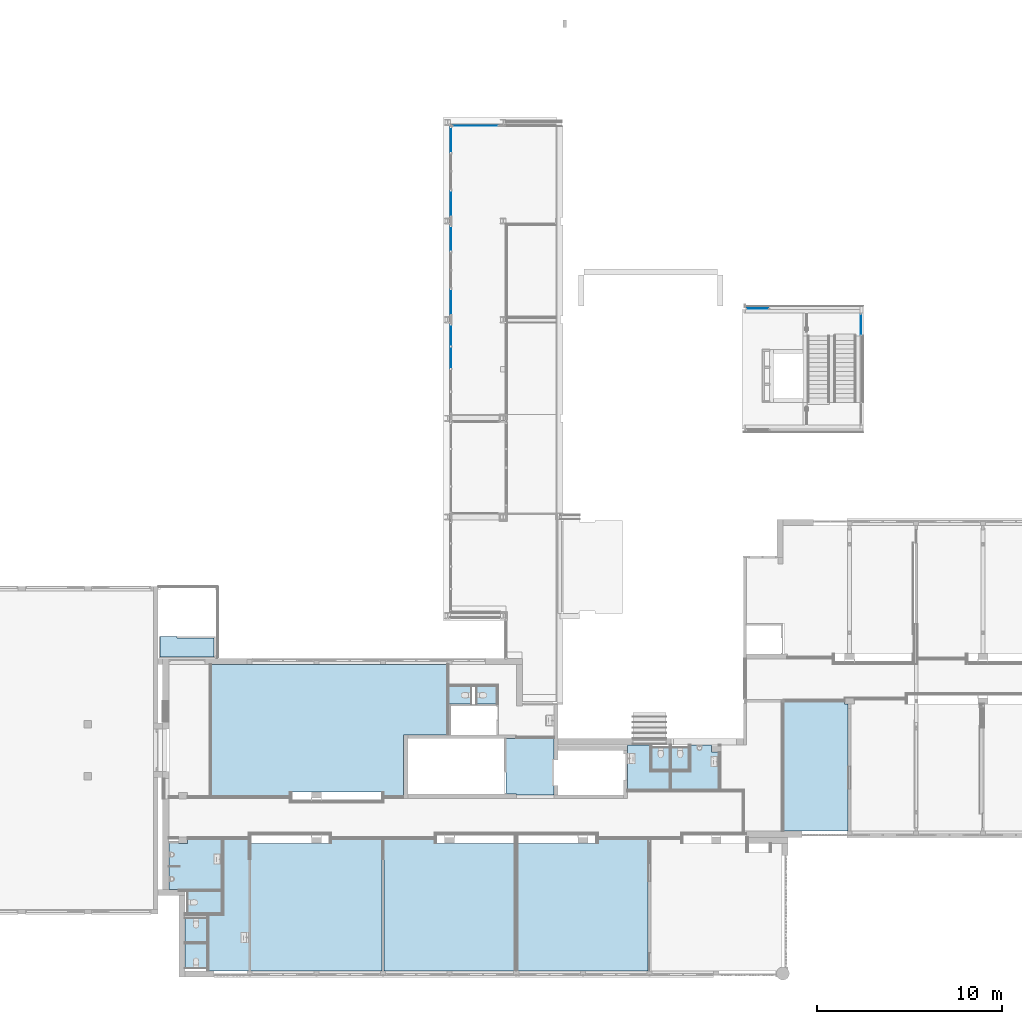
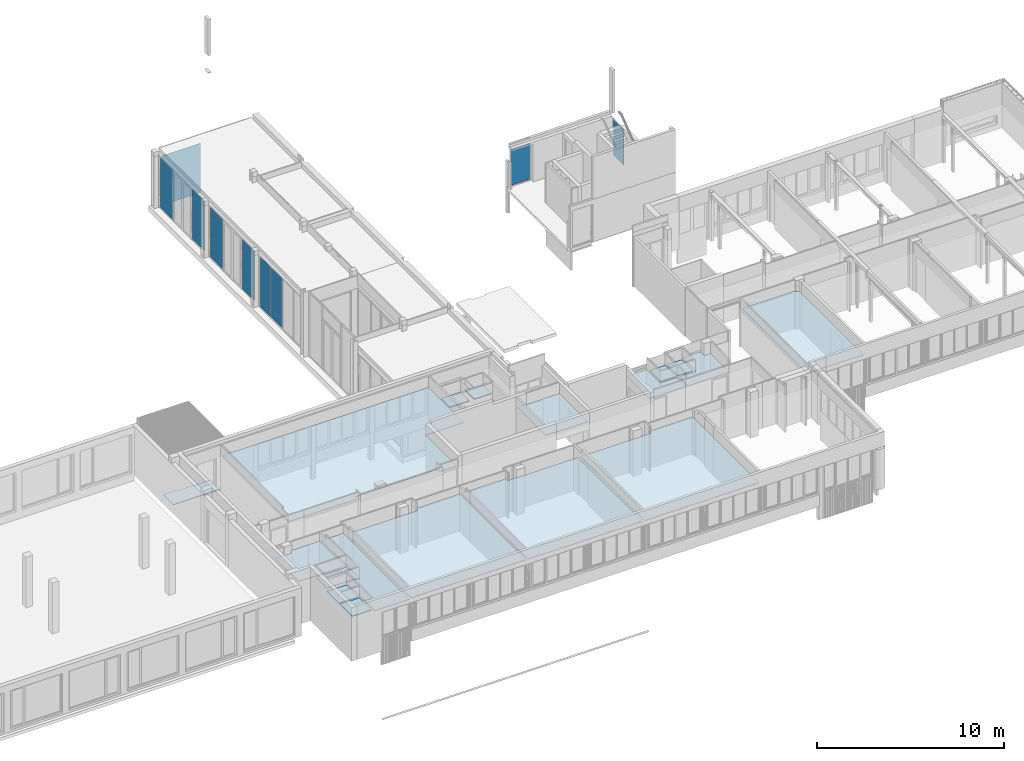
# One storey, part 8 of 99: 18 slabs, 9 plates, 6 elements without a shape of their own.
"""IFC2X3 building model written with IfcOpenShell, lengths in millimetres."""

from ifc_helpers import new_model, entity, si_unit, converted_unit, derived_unit, money_unit, direction, frame, origin_with_axes, place, context, subcontext, project, spatial, faceted_brep, source, transform, mapped, material, type_object, type_shapes, element, aggregate, save


model = new_model("IFC2X3")

# Units and contexts
model_context = context("Model", 3, precision=0.01, world=origin_with_axes(), true_north=direction((0.0, 1.0)))
body_context = subcontext(model_context, "Body", "Model", "MODEL_VIEW")
ifc_project = project(units=[si_unit("LENGTHUNIT", "METRE", prefix="MILLI"), si_unit("AREAUNIT", "SQUARE_METRE"), si_unit("VOLUMEUNIT", "CUBIC_METRE"), converted_unit("PLANEANGLEUNIT", "DEGREE", entity("IfcPlaneAngleMeasure", 0.0174532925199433), si_unit("PLANEANGLEUNIT", "RADIAN"), dimensions=[0, 0, 0, 0, 0, 0, 0]), money_unit("EUR"), converted_unit("TIMEUNIT", "Year", entity("IfcTimeMeasure", 31557600.0), si_unit("TIMEUNIT", "SECOND"), dimensions=[0, 0, 1, 0, 0, 0, 0]), si_unit("MASSUNIT", "GRAM", prefix="KILO"), si_unit("THERMODYNAMICTEMPERATUREUNIT", "DEGREE_CELSIUS"), si_unit("LUMINOUSINTENSITYUNIT", "LUMEN"), si_unit("ENERGYUNIT", "JOULE", prefix="MEGA"), derived_unit("THERMALCONDUCTANCEUNIT", [(si_unit("POWERUNIT", "WATT"), 1), (si_unit("LENGTHUNIT", "METRE"), -1), (si_unit("THERMODYNAMICTEMPERATUREUNIT", "KELVIN"), -1)]), derived_unit("SPECIFICHEATCAPACITYUNIT", [(si_unit("ENERGYUNIT", "JOULE"), 1), (si_unit("MASSUNIT", "GRAM", prefix="KILO"), -1), (si_unit("THERMODYNAMICTEMPERATUREUNIT", "KELVIN"), -1)]), derived_unit("MASSDENSITYUNIT", [(si_unit("MASSUNIT", "GRAM", prefix="KILO"), 1), (si_unit("VOLUMEUNIT", "CUBIC_METRE"), -1)])], contexts=[model_context])

# Site, building, storey
site_placement = place(None, origin_with_axes())
site = spatial("IfcSite", under=ifc_project, at=site_placement, Name="Site", CompositionType="ELEMENT")
building_placement = place(site_placement, origin_with_axes())
building = spatial("IfcBuilding", under=site, at=building_placement, Name="Naam gebouw", CompositionType="ELEMENT")
storey_placement = place(building_placement, frame((0.0, 0.0, 7650.0), z_axis=(0.0, 0.0, 1.0), x_axis=(1.0, 0.0, 0.0)))
storey = spatial("IfcBuildingStorey", under=building, at=storey_placement, Name="2e verdieping N", CompositionType="ELEMENT", Elevation=7650.0)

# Curtain wall, plate
curtain_wall_type_1 = type_object("IfcCurtainWallType", Name="Curtain Wall:21_CW_alu kozijn 070x065", PredefinedType="NOTDEFINED")
curtain_wall_1_placement = place(storey_placement, frame((0.0, 0.0, -7650.0), z_axis=(0.0, 0.0, 1.0), x_axis=(1.0, 0.0, 0.0)))
curtain_wall_1 = element("IfcCurtainWall", 1, at=curtain_wall_1_placement, inside=storey, type_object=curtain_wall_type_1, Name="Curtain Wall:21_CW_alu kozijn 070x065", ObjectType="Curtain Wall:21_CW_alu kozijn 070x065")
ifc_material_1 = material(Name="Glass")
plate_type_1 = type_object("IfcPlateType", Name="System Panel:31_CWP_alu glas_2", PredefinedType="CURTAIN_PANEL")
shared_shape_1 = source(origin_with_axes(), body_context, "Body", "Brep", [
    faceted_brep([(540.0000000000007, -12.00000000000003, 0.0), (540.0000000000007, 11.99999999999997, 0.0), (540.0000000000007, 11.99999999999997, 2330.000000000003), (540.0000000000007, -12.00000000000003, 2330.000000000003), (-540.0000000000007, -11.99999999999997, 0.0), (-540.0000000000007, 12.00000000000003, 0.0), (-540.0000000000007, 12.00000000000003, 2330.000000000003), (-540.0000000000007, -11.99999999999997, 2330.000000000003)], [[[0, 1, 2, 3]], [[0, 4, 5, 1]], [[1, 5, 6, 2]], [[3, 2, 6, 7]], [[4, 0, 3, 7]], [[5, 4, 7, 6]]]),
])
type_shapes(plate_type_1, [shared_shape_1])
plate_1_placement = place(curtain_wall_1_placement, frame((36613.5000000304, 38355.91242625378, 5990.000000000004), z_axis=(0.0, 0.0, 1.0), x_axis=(0.0, -1.0, 0.0)))
plate_1 = element("IfcPlate", 2, at=plate_1_placement, type_object=plate_type_1, material=ifc_material_1, Name="System Panel:31_CWP_alu glas_2", ObjectType="CURTAIN_PANEL", context=body_context, shape_type="MappedRepresentation", body=[
    mapped(shared_shape_1, transform((0.0, 0.0, 0.0))),
])
aggregate(curtain_wall_1, [plate_1])

curtain_wall_2_placement = place(storey_placement, frame((0.0, 0.0, -7650.0), z_axis=(0.0, 0.0, 1.0), x_axis=(1.0, 0.0, 0.0)))
curtain_wall_2 = element("IfcCurtainWall", 3, at=curtain_wall_2_placement, inside=storey, type_object=curtain_wall_type_1, Name="Curtain Wall:21_CW_alu kozijn 070x065", ObjectType="Curtain Wall:21_CW_alu kozijn 070x065")
plate_type_2 = type_object("IfcPlateType", Name="System Panel:31_CWP_alu glas_2", PredefinedType="CURTAIN_PANEL")
shared_shape_2 = source(origin_with_axes(), body_context, "Body", "Brep", [
    faceted_brep([(577.0051413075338, -12.00000000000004, 0.0), (577.0051413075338, 11.99999999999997, 0.0), (577.0051413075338, 11.99999999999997, 2330.000000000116), (577.0051413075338, -12.00000000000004, 2330.000000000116), (-577.0051413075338, -11.99999999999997, 0.0), (-577.0051413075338, 12.00000000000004, 0.0), (-577.0051413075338, 12.00000000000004, 2330.000000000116), (-577.0051413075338, -11.99999999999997, 2330.000000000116)], [[[0, 1, 2, 3]], [[0, 4, 5, 1]], [[1, 5, 6, 2]], [[3, 2, 6, 7]], [[4, 0, 3, 7]], [[5, 4, 7, 6]]]),
])
type_shapes(plate_type_2, [shared_shape_2])
plate_2_placement = place(curtain_wall_2_placement, frame((31038.00514136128, 39212.4124263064, 5990.000000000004), z_axis=(0.0, 0.0, 1.0), x_axis=(-1.0, 0.0, 0.0)))
plate_2 = element("IfcPlate", 4, at=plate_2_placement, type_object=plate_type_2, material=ifc_material_1, Name="System Panel:31_CWP_alu glas_2", ObjectType="CURTAIN_PANEL", context=body_context, shape_type="MappedRepresentation", body=[
    mapped(shared_shape_2, transform((0.0, 0.0, 0.0))),
])
aggregate(curtain_wall_2, [plate_2])

# Curtain wall, plates
curtain_wall_type_2 = type_object("IfcCurtainWallType", Name="Curtain Wall:21_CW_alu kozijn 084x065", PredefinedType="NOTDEFINED")
curtain_wall_3_placement = place(storey_placement, frame((0.0, 0.0, -7650.0), z_axis=(0.0, 0.0, 1.0), x_axis=(1.0, 0.0, 0.0)))
curtain_wall_3 = element("IfcCurtainWall", 5, at=curtain_wall_3_placement, inside=storey, type_object=curtain_wall_type_2, Name="Curtain Wall:21_CW_alu kozijn 084x065", ObjectType="Curtain Wall:21_CW_alu kozijn 084x065")
ifc_material_2 = material(Name="glas (1)")
plate_type_3 = type_object("IfcPlateType", Name="30_3B_vliesgevel - vastglas:vast glas_bi vast", PredefinedType="CURTAIN_PANEL")
shared_shape_3 = source(origin_with_axes(), body_context, "Body", "Brep", [
    faceted_brep([(654.5000000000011, -10.50000000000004, 0.0), (654.5000000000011, 10.49999999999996, 0.0), (654.5000000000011, 10.49999999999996, 3232.0), (654.5000000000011, -10.50000000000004, 3232.0), (-654.5000000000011, -10.49999999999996, 0.0), (-654.5000000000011, 10.50000000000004, 0.0), (-654.5000000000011, 10.50000000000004, 3232.0), (-654.5000000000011, -10.49999999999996, 3232.0)], [[[0, 1, 2, 3]], [[0, 4, 5, 1]], [[1, 5, 6, 2]], [[3, 2, 6, 7]], [[4, 0, 3, 7]], [[5, 4, 7, 6]]]),
])
type_shapes(plate_type_3, [shared_shape_3])
plate_3_placement = place(curtain_wall_3_placement, frame((14474.50000003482, 42992.41242627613, 4234.000000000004), z_axis=(0.0, 0.0, 1.0), x_axis=(0.0, 1.0, 0.0)))
plate_3 = element("IfcPlate", 6, at=plate_3_placement, type_object=plate_type_3, material=ifc_material_2, Name="30_3B_vliesgevel - vastglas:vast glas_bi vast", ObjectType="CURTAIN_PANEL", context=body_context, shape_type="MappedRepresentation", body=[
    mapped(shared_shape_3, transform((0.0, 0.0, 0.0))),
])
plate_4_placement = place(curtain_wall_3_placement, frame((14474.50000006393, 39569.41242632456, 4234.000000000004), z_axis=(0.0, 0.0, 1.0), x_axis=(0.0, 1.0, 0.0)))
plate_4 = element("IfcPlate", 7, at=plate_4_placement, type_object=plate_type_3, material=ifc_material_2, Name="30_3B_vliesgevel - vastglas:vast glas_bi vast", ObjectType="CURTAIN_PANEL", context=body_context, shape_type="MappedRepresentation", body=[
    mapped(shared_shape_3, transform((0.0, 0.0, 0.0))),
])
aggregate(curtain_wall_3, [plate_3, plate_4])

curtain_wall_4_placement = place(storey_placement, frame((0.0, 0.0, -7650.0), z_axis=(0.0, 0.0, 1.0), x_axis=(1.0, 0.0, 0.0)))
curtain_wall_4 = element("IfcCurtainWall", 8, at=curtain_wall_4_placement, inside=storey, type_object=curtain_wall_type_2, Name="Curtain Wall:21_CW_alu kozijn 084x065", ObjectType="Curtain Wall:21_CW_alu kozijn 084x065")
plate_5_placement = place(curtain_wall_4_placement, frame((14474.50000006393, 48322.41242629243, 4234.000000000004), z_axis=(0.0, 0.0, 1.0), x_axis=(0.0, 1.0, 0.0)))
plate_5 = element("IfcPlate", 9, at=plate_5_placement, type_object=plate_type_3, material=ifc_material_2, Name="30_3B_vliesgevel - vastglas:vast glas_bi vast", ObjectType="CURTAIN_PANEL", context=body_context, shape_type="MappedRepresentation", body=[
    mapped(shared_shape_3, transform((0.0, 0.0, 0.0))),
])
plate_6_placement = place(curtain_wall_4_placement, frame((14474.50000003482, 44899.41242634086, 4234.000000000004), z_axis=(0.0, 0.0, 1.0), x_axis=(0.0, 1.0, 0.0)))
plate_6 = element("IfcPlate", 10, at=plate_6_placement, type_object=plate_type_3, material=ifc_material_2, Name="30_3B_vliesgevel - vastglas:vast glas_bi vast", ObjectType="CURTAIN_PANEL", context=body_context, shape_type="MappedRepresentation", body=[
    mapped(shared_shape_3, transform((0.0, 0.0, 0.0))),
])
aggregate(curtain_wall_4, [plate_5, plate_6])

curtain_wall_5_placement = place(storey_placement, frame((0.0, 0.0, -7650.0), z_axis=(0.0, 0.0, 1.0), x_axis=(1.0, 0.0, 0.0)))
curtain_wall_5 = element("IfcCurtainWall", 11, at=curtain_wall_5_placement, inside=storey, type_object=curtain_wall_type_2, Name="Curtain Wall:21_CW_alu kozijn 084x065", ObjectType="Curtain Wall:21_CW_alu kozijn 084x065")
plate_type_4 = type_object("IfcPlateType", Name="30_3B_vliesgevel - vastglas:vast glas_bi vast", PredefinedType="CURTAIN_PANEL")
shared_shape_4 = source(origin_with_axes(), body_context, "Body", "Brep", [
    faceted_brep([(570.4999999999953, -10.50000000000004, 0.0), (570.4999999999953, 10.49999999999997, 0.0), (570.4999999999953, 10.49999999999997, 3232.0), (570.4999999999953, -10.50000000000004, 3232.0), (-570.4999999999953, -10.49999999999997, 0.0), (-570.4999999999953, 10.50000000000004, 0.0), (-570.4999999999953, 10.50000000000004, 3232.0), (-570.4999999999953, -10.49999999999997, 3232.0)], [[[0, 1, 2, 3]], [[0, 4, 5, 1]], [[1, 5, 6, 2]], [[3, 2, 6, 7]], [[4, 0, 3, 7]], [[5, 4, 7, 6]]]),
])
type_shapes(plate_type_4, [shared_shape_4])
plate_7_placement = place(curtain_wall_5_placement, frame((14474.50000003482, 36563.41242627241, 4234.000000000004), z_axis=(0.0, 0.0, 1.0), x_axis=(0.0, 1.0, 0.0)))
plate_7 = element("IfcPlate", 12, at=plate_7_placement, type_object=plate_type_4, material=ifc_material_2, Name="30_3B_vliesgevel - vastglas:vast glas_bi vast", ObjectType="CURTAIN_PANEL", context=body_context, shape_type="MappedRepresentation", body=[
    mapped(shared_shape_4, transform((0.0, 0.0, 0.0))),
])
plate_type_5 = type_object("IfcPlateType", Name="30_3B_vliesgevel - vastglas:vast glas_bi vast", PredefinedType="CURTAIN_PANEL")
shared_shape_5 = source(origin_with_axes(), body_context, "Body", "Brep", [
    faceted_brep([(549.4999999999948, -10.50000000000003, 0.0), (549.4999999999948, 10.49999999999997, 0.0), (549.4999999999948, 10.49999999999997, 3232.0), (549.4999999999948, -10.50000000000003, 3232.0), (-549.4999999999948, -10.49999999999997, 0.0), (-549.4999999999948, 10.50000000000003, 0.0), (-549.4999999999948, 10.50000000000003, 3232.0), (-549.4999999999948, -10.49999999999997, 3232.0)], [[[0, 1, 2, 3]], [[0, 4, 5, 1]], [[1, 5, 6, 2]], [[3, 2, 6, 7]], [[4, 0, 3, 7]], [[5, 4, 7, 6]]]),
])
type_shapes(plate_type_5, [shared_shape_5])
plate_8_placement = place(curtain_wall_5_placement, frame((14474.50000003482, 37767.41242629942, 4234.000000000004), z_axis=(0.0, 0.0, 1.0), x_axis=(0.0, 1.0, 0.0)))
plate_8 = element("IfcPlate", 13, at=plate_8_placement, type_object=plate_type_5, material=ifc_material_2, Name="30_3B_vliesgevel - vastglas:vast glas_bi vast", ObjectType="CURTAIN_PANEL", context=body_context, shape_type="MappedRepresentation", body=[
    mapped(shared_shape_5, transform((0.0, 0.0, 0.0))),
])
aggregate(curtain_wall_5, [plate_7, plate_8])

# Curtain wall, plate
curtain_wall_6_placement = place(storey_placement, frame((0.0, 0.0, -7650.0), z_axis=(0.0, 0.0, 1.0), x_axis=(1.0, 0.0, 0.0)))
curtain_wall_6 = element("IfcCurtainWall", 14, at=curtain_wall_6_placement, inside=storey, type_object=curtain_wall_type_2, Name="Curtain Wall:21_CW_alu kozijn 084x065", ObjectType="Curtain Wall:21_CW_alu kozijn 084x065")
plate_type_6 = type_object("IfcPlateType", Name="System Panel:31_CWP_alu glas_2", PredefinedType="CURTAIN_PANEL")
shared_shape_6 = source(origin_with_axes(), body_context, "Body", "Brep", [
    faceted_brep([(1200.500000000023, -12.00000000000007, 0.0), (1200.500000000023, 11.99999999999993, 0.0), (1200.500000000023, 11.99999999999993, 3232.0), (1200.500000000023, -12.00000000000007, 3232.0), (-1200.500000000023, -11.99999999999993, 0.0), (-1200.500000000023, 12.00000000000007, 0.0), (-1200.500000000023, 12.00000000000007, 3232.0), (-1200.500000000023, -11.99999999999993, 3232.0)], [[[0, 1, 2, 3]], [[0, 4, 5, 1]], [[1, 5, 6, 2]], [[3, 2, 6, 7]], [[4, 0, 3, 7]], [[5, 4, 7, 6]]]),
])
type_shapes(plate_type_6, [shared_shape_6])
plate_9_placement = place(curtain_wall_6_placement, frame((15791.50000004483, 49093.41242630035, 4234.000000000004), z_axis=(0.0, 0.0, 1.0), x_axis=(1.0, 0.0, 0.0)))
plate_9 = element("IfcPlate", 15, at=plate_9_placement, type_object=plate_type_6, material=ifc_material_1, Name="System Panel:31_CWP_alu glas_2", ObjectType="CURTAIN_PANEL", context=body_context, shape_type="MappedRepresentation", body=[
    mapped(shared_shape_6, transform((0.0, 0.0, 0.0))),
])
aggregate(curtain_wall_6, [plate_9])

# Slabs
ifc_material_3 = material(Name="ALG - BINNENAFWERKING")
slab_type_1 = type_object("IfcSlabType", Name="ALG - BINNENAFWERKING 40", PredefinedType="NOTDEFINED")
slab_1_placement = place(storey_placement, frame((1300.000043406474, 4894.78011222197, 2400.0), z_axis=(0.0, 0.0, 1.0), x_axis=(1.0, 0.0, 0.0)))
element("IfcSlab", 16, at=slab_1_placement, inside=storey, type_object=slab_type_1, material=ifc_material_3, Name="_Vloer-x", PredefinedType="NOTDEFINED", context=body_context, shape_type="Brep", body=[
    faceted_brep([(-1199.999995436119, 0.0, 39.99999999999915), (-1199.999995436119, -1297.906247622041, 39.99999999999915), (0.0, -1297.906247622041, 39.99999999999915), (0.0, 0.0, 39.99999999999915), (-1199.999995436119, 0.0, 0.0), (-1199.999995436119, -1297.906247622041, 0.0), (0.0, -1297.906247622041, 0.0), (0.0, 0.0, 0.0)], [[[0, 1, 2, 3]], [[4, 5, 1, 0]], [[5, 6, 2, 1]], [[3, 2, 6, 7]], [[0, 3, 7, 4]], [[7, 6, 5, 4]]]),
])
slab_2_placement = place(storey_placement, frame((26277.99999999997, 13220.85811912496, 2400.0), z_axis=(0.0, 0.0, 1.0), x_axis=(1.0, 0.0, 0.0)))
element("IfcSlab", 17, at=slab_2_placement, inside=storey, type_object=slab_type_1, material=ifc_material_3, Name="_Vloer-x", PredefinedType="NOTDEFINED", context=body_context, shape_type="Brep", body=[
    faceted_brep([(0.0, 0.0, 39.99999999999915), (0.0, 0.0, 0.0), (0.0, 980.0543059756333, 0.0), (0.0, 980.0543059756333, 39.99999999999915), (-2274.999999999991, 0.0, 39.99999999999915), (-2274.999999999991, 0.0, 0.0), (-2274.999999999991, 2430.054305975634, 0.0), (-1049.999999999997, 2430.054305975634, 0.0), (-1049.999999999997, 980.0543059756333, 0.0), (-1049.999999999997, 980.0543059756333, 39.99999999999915), (-1049.999999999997, 2430.054305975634, 39.99999999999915), (-2274.999999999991, 2430.054305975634, 39.99999999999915)], [[[0, 1, 2, 3]], [[4, 5, 1, 0]], [[2, 1, 5, 6, 7, 8]], [[3, 2, 8, 9]], [[4, 0, 3, 9, 10, 11]], [[11, 6, 5, 4]], [[10, 7, 6, 11]], [[9, 8, 7, 10]]]),
])
slab_3_placement = place(storey_placement, frame((1300.000044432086, 6295.658971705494, 2400.0), z_axis=(0.0, 0.0, 1.0), x_axis=(1.0, 0.0, 0.0)))
element("IfcSlab", 18, at=slab_3_placement, inside=storey, type_object=slab_type_1, material=ifc_material_3, Name="_Vloer-x", PredefinedType="NOTDEFINED", context=body_context, shape_type="Brep", body=[
    faceted_brep([(-1199.999996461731, 0.0, 39.99999999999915), (-1199.999996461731, -1299.995155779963, 39.99999999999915), (0.0, -1299.995155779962, 39.99999999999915), (0.0, 0.0, 39.99999999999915), (-1199.999996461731, 0.0, 0.0), (-1199.999996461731, -1299.995155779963, 0.0), (0.0, -1299.995155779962, 0.0), (0.0, 0.0, 0.0)], [[[0, 1, 2, 3]], [[4, 5, 1, 0]], [[5, 6, 2, 1]], [[3, 2, 6, 7]], [[0, 3, 7, 4]], [[7, 6, 5, 4]]]),
])
slab_4_placement = place(storey_placement, frame((-770.0761052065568, 10341.00440703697, 2400.0), z_axis=(0.0, 0.0, 1.0), x_axis=(1.0, 0.0, 0.0)))
element("IfcSlab", 19, at=slab_4_placement, inside=storey, type_object=slab_type_1, material=ifc_material_3, Name="_Vloer-x", PredefinedType="NOTDEFINED", context=body_context, shape_type="Brep", body=[
    faceted_brep([(520.0761075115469, 1.959758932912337e-05, 39.99999999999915), (0.05161017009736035, 1.945110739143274e-09, 39.99999999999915), (0.06455934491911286, -2505.224564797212, 39.99999999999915), (2870.076105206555, -2505.224564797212, 39.99999999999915), (2870.076105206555, 209.9080376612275, 39.99999999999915), (1020.076105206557, 209.9080376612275, 39.99999999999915), (1020.076105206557, -22.59198193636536, 39.99999999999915), (520.0761052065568, -22.59198193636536, 39.99999999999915), (520.0761075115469, 1.959758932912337e-05, 0.0), (0.05161017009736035, 1.945110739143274e-09, 0.0), (0.06455934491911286, -2505.224564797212, 0.0), (2870.076105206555, -2505.224564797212, 0.0), (2870.076105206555, 209.9080376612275, 0.0), (1020.076105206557, 209.9080376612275, 0.0), (1020.076105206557, -22.59198193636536, 0.0), (520.0761052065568, -22.59198193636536, 0.0)], [[[0, 1, 2, 3, 4, 5, 6, 7]], [[8, 9, 1, 0]], [[9, 10, 2, 1]], [[3, 2, 10, 11]], [[4, 3, 11, 12]], [[5, 4, 12, 13]], [[6, 5, 13, 14]], [[7, 6, 14, 15]], [[0, 7, 15, 8]], [[11, 10, 9, 8, 15, 14, 13, 12]]]),
])
slab_5_placement = place(storey_placement, frame((2099.999999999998, 7735.77984600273, 2400.0), z_axis=(0.0, 0.0, 1.0), x_axis=(1.0, 0.0, 0.0)))
element("IfcSlab", 20, at=slab_5_placement, inside=storey, type_object=slab_type_1, material=ifc_material_3, Name="_Vloer-x", PredefinedType="NOTDEFINED", context=body_context, shape_type="Brep", body=[
    faceted_brep([(0.0, 0.0, 39.99999999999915), (0.0, 0.0, 0.0), (-1849.999952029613, 0.0, 0.0), (-1849.999952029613, 0.0, 39.99999999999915), (0.0, -1190.120874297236, 39.99999999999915), (0.0, -1190.120874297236, 0.0), (-1849.999952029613, -1190.120874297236, 0.0), (-1849.999952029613, -1190.120874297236, 39.99999999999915)], [[[0, 1, 2, 3]], [[4, 5, 1, 0]], [[2, 1, 5, 6]], [[3, 2, 6, 7]], [[4, 0, 3, 7]], [[7, 6, 5, 4]]]),
])
slab_6_placement = place(storey_placement, frame((3649.999999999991, 3445.668707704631, 2450.000000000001), z_axis=(0.0, 0.0, 1.0), x_axis=(1.0, 0.0, 0.0)))
element("IfcSlab", 21, at=slab_6_placement, inside=storey, type_object=slab_type_1, material=ifc_material_3, Name="_Vloer-x", PredefinedType="NOTDEFINED", context=body_context, shape_type="Brep", body=[
    faceted_brep([(7100.00400859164, 0.06479576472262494, 39.99999999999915), (0.0, 0.0, 39.99999999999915), (0.0, 0.0, 0.0), (7100.00400859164, 0.06479576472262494, 0.0), (4365.000000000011, 6885.243717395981, 39.99999999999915), (0.0, 6885.243717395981, 39.99999999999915), (7100.000000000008, 7110.243717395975, 39.99999999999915), (4365.000000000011, 7110.243717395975, 39.99999999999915), (0.0, 6885.243717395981, 0.0), (7100.000000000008, 7110.243717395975, 0.0), (4365.000000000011, 6885.243717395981, 0.0), (4365.000000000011, 7110.243717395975, 0.0)], [[[0, 1, 2, 3]], [[4, 5, 1, 0, 6, 7]], [[1, 5, 8, 2]], [[9, 3, 2, 8, 10, 11]], [[6, 0, 3, 9]], [[5, 4, 10, 8]], [[7, 6, 9, 11]], [[4, 7, 11, 10]]]),
])
slab_7_placement = place(storey_placement, frame((18075.0, 3445.668707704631, 2450.000000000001), z_axis=(0.0, 0.0, 1.0), x_axis=(1.0, 0.0, 0.0)))
element("IfcSlab", 22, at=slab_7_placement, inside=storey, type_object=slab_type_1, material=ifc_material_3, Name="_Vloer-x", PredefinedType="NOTDEFINED", context=body_context, shape_type="Brep", body=[
    faceted_brep([(0.0, 0.0, 39.99999999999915), (0.0, 0.0, 0.0), (7049.999999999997, 0.0, 0.0), (7049.999999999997, 0.0, 39.99999999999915), (0.0, 6885.243717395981, 39.99999999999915), (0.0, 6885.243717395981, 0.0), (4340.000000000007, 6885.243717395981, 0.0), (4340.000000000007, 7110.243717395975, 0.0), (7049.999999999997, 7110.243717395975, 0.0), (7049.999999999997, 7110.243717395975, 39.99999999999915), (4340.000000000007, 7110.243717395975, 39.99999999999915), (4340.000000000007, 6885.243717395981, 39.99999999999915)], [[[0, 1, 2, 3]], [[4, 5, 1, 0]], [[2, 1, 5, 6, 7, 8]], [[3, 2, 8, 9]], [[4, 0, 3, 9, 10, 11]], [[11, 6, 5, 4]], [[10, 7, 6, 11]], [[9, 8, 7, 10]]]),
])
slab_8_placement = place(storey_placement, frame((10850.00400859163, 3445.733530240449, 2450.000000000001), z_axis=(0.0, 0.0, 1.0), x_axis=(1.0, 0.0, 0.0)))
element("IfcSlab", 23, at=slab_8_placement, inside=storey, type_object=slab_type_1, material=ifc_material_3, Name="_Vloer-x", PredefinedType="NOTDEFINED", context=body_context, shape_type="Brep", body=[
    faceted_brep([(0.0, 0.0, 39.99999999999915), (0.0, 0.0, 0.0), (7074.995991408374, -0.06482253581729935, 0.0), (7074.995991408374, -0.06482253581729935, 39.99999999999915), (0.0, 7110.178894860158, 39.99999999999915), (0.0, 7110.178894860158, 0.0), (2734.995991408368, 7110.178894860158, 0.0), (2734.995991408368, 6885.178894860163, 0.0), (7074.995991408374, 6885.178894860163, 0.0), (7074.995991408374, 6885.178894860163, 39.99999999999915), (2734.995991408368, 6885.178894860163, 39.99999999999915), (2734.995991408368, 7110.178894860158, 39.99999999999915)], [[[0, 1, 2, 3]], [[4, 5, 1, 0]], [[2, 1, 5, 6, 7, 8]], [[3, 2, 8, 9]], [[4, 0, 3, 9, 10, 11]], [[11, 6, 5, 4]], [[10, 7, 6, 11]], [[9, 8, 7, 10]]]),
])
slab_9_placement = place(storey_placement, frame((1529.923894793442, 12875.85635739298, 2449.999999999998), z_axis=(0.0, 0.0, 1.0), x_axis=(1.0, 0.0, 0.0)))
element("IfcSlab", 24, at=slab_9_placement, inside=storey, type_object=slab_type_1, material=ifc_material_3, Name="_Vloer-x", PredefinedType="NOTDEFINED", context=body_context, shape_type="Brep", body=[
    faceted_brep([(9320.076105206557, 225.0055161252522, 39.99999999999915), (9320.076105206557, 0.0, 39.99999999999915), (10375.57662369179, 0.0, 39.99999999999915), (10375.57662369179, 3320.063902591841, 39.99999999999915), (12732.57610520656, 3320.063902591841, 39.99999999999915), (12732.57610520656, 7119.959839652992, 39.99999999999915), (0.0, 7119.959839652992, 39.99999999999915), (0.0, 0.0, 39.99999999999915), (4244.575586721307, 0.0, 39.99999999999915), (4244.575586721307, 225.0055161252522, 39.99999999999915), (9320.076105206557, 225.0055161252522, 0.0), (9320.076105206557, 0.0, 0.0), (10375.57662369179, 0.0, 0.0), (10375.57662369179, 3320.063902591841, 0.0), (12732.57610520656, 3320.063902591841, 0.0), (12732.57610520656, 7119.959839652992, 0.0), (0.0, 7119.959839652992, 0.0), (0.0, 0.0, 0.0), (4244.575586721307, 0.0, 0.0), (4244.575586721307, 225.0055161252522, 0.0)], [[[0, 1, 2, 3, 4, 5, 6, 7, 8, 9]], [[10, 11, 1, 0]], [[11, 12, 2, 1]], [[3, 2, 12, 13]], [[13, 14, 4, 3]], [[14, 15, 5, 4]], [[15, 16, 6, 5]], [[16, 17, 7, 6]], [[17, 18, 8, 7]], [[18, 19, 9, 8]], [[19, 10, 0, 9]], [[13, 12, 11, 10, 19, 18, 17, 16, 15, 14]]]),
])
slab_10_placement = place(storey_placement, frame((1400.000047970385, 3445.668707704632, 2400.0), z_axis=(0.0, 0.0, 1.0), x_axis=(1.0, 0.0, 0.0)))
element("IfcSlab", 25, at=slab_10_placement, inside=storey, type_object=slab_type_1, material=ifc_material_3, Name="_Vloer-x", PredefinedType="NOTDEFINED", context=body_context, shape_type="Brep", body=[
    faceted_brep([(0.0, 0.0, 39.99999999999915), (0.0, 0.0, 0.0), (2149.999952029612, 0.0, 0.0), (2149.999952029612, 0.0, 39.99999999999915), (0.0, 2999.990264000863, 39.99999999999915), (0.0, 2999.990264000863, 0.0), (799.999952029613, 2999.990264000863, 0.0), (799.9999520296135, 7105.243717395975, 0.0), (2149.999952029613, 7105.243717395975, 0.0), (2149.999952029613, 7105.243717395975, 39.99999999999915), (799.9999520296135, 7105.243717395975, 39.99999999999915), (799.999952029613, 2999.990264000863, 39.99999999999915)], [[[0, 1, 2, 3]], [[4, 5, 1, 0]], [[2, 1, 5, 6, 7, 8]], [[3, 2, 8, 9]], [[4, 0, 3, 9, 10, 11]], [[11, 6, 5, 4]], [[10, 7, 6, 11]], [[9, 8, 7, 10]]]),
])
slab_11_placement = place(storey_placement, frame((32449.99999999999, 10990.91242510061, 2450.000000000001), z_axis=(0.0, 0.0, 1.0), x_axis=(1.0, 0.0, 0.0)))
element("IfcSlab", 26, at=slab_11_placement, inside=storey, type_object=slab_type_1, material=ifc_material_3, Name="_Vloer-x", PredefinedType="NOTDEFINED", context=body_context, shape_type="Brep", body=[
    faceted_brep([(3475.000000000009, 0.0, 0.0), (3475.000000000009, 6880.000000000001, 0.0), (3475.000000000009, 6880.000000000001, 39.99999999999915), (3475.000000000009, 0.0, 39.99999999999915), (3279.99999999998, 6985.000000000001, 0.0), (3279.99999999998, 6880.000000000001, 0.0), (0.0, 0.0, 0.0), (0.0, 6970.000000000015, 0.0), (14.99999999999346, 6970.000000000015, 0.0), (14.99999999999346, 6985.000000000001, 0.0), (3279.99999999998, 6880.000000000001, 39.99999999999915), (3279.99999999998, 6985.000000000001, 39.99999999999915), (14.99999999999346, 6985.000000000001, 39.99999999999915), (14.99999999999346, 6970.000000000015, 39.99999999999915), (0.0, 6970.000000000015, 39.99999999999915), (0.0, 0.0, 39.99999999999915)], [[[0, 1, 2, 3]], [[4, 5, 1, 0, 6, 7, 8, 9]], [[5, 10, 2, 1]], [[2, 10, 11, 12, 13, 14, 15, 3]], [[0, 3, 15, 6]], [[5, 4, 11, 10]], [[6, 15, 14, 7]], [[8, 7, 14, 13]], [[9, 8, 13, 12]], [[12, 11, 4, 9]]]),
])
slab_12_placement = place(storey_placement, frame((15862.5, 17856.42315075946, 2400.0), z_axis=(0.0, 0.0, 1.0), x_axis=(1.0, 0.0, 0.0)))
element("IfcSlab", 27, at=slab_12_placement, inside=storey, type_object=slab_type_1, material=ifc_material_3, Name="_Vloer-x", PredefinedType="NOTDEFINED", context=body_context, shape_type="Brep", body=[
    faceted_brep([(0.0, 0.0, 39.99999999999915), (0.0, 0.0, 0.0), (1075.292240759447, 0.0, 0.0), (1075.292240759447, 0.0, 39.99999999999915), (0.0, 950.0000000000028, 39.99999999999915), (0.0, 950.0000000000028, 0.0), (1075.292240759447, 950.0000000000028, 0.0), (1075.292240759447, 950.0000000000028, 39.99999999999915)], [[[0, 1, 2, 3]], [[4, 5, 1, 0]], [[2, 1, 5, 6]], [[3, 2, 6, 7]], [[4, 0, 3, 7]], [[7, 6, 5, 4]]]),
])
slab_13_placement = place(storey_placement, frame((17455.50051848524, 15995.92025998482, 2450.000000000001), z_axis=(0.0, 0.0, 1.0), x_axis=(1.0, 0.0, 0.0)))
element("IfcSlab", 28, at=slab_13_placement, inside=storey, type_object=slab_type_1, material=ifc_material_3, Name="_Vloer-x", PredefinedType="NOTDEFINED", context=body_context, shape_type="Brep", body=[
    faceted_brep([(0.0, -3001.318522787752, 39.99999999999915), (0.0, 0.0, 39.99999999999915), (0.0, 0.0, 0.0), (0.0, -3001.318522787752, 0.0), (2585.499481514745, -3051.312220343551, 39.99999999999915), (2585.499481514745, 0.0, 39.99999999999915), (545.7546991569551, -3001.318522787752, 39.99999999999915), (545.7546991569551, -3051.312220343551, 39.99999999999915), (2585.499481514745, 0.0, 0.0), (545.7546991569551, -3001.318522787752, 0.0), (2585.499481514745, -3051.312220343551, 0.0), (545.7546991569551, -3051.312220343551, 0.0)], [[[0, 1, 2, 3]], [[4, 5, 1, 0, 6, 7]], [[1, 5, 8, 2]], [[9, 3, 2, 8, 10, 11]], [[6, 0, 3, 9]], [[5, 4, 10, 8]], [[7, 6, 9, 11]], [[4, 7, 11, 10]]]),
])
slab_14_placement = place(storey_placement, frame((26377.99999999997, 13220.85811912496, 2400.0), z_axis=(0.0, 0.0, 1.0), x_axis=(1.0, 0.0, 0.0)))
element("IfcSlab", 29, at=slab_14_placement, inside=storey, type_object=slab_type_1, material=ifc_material_3, Name="_Vloer-x", PredefinedType="NOTDEFINED", context=body_context, shape_type="Brep", body=[
    faceted_brep([(0.0, 0.0, 39.99999999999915), (0.0, 0.0, 0.0), (2572.00000000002, 0.0, 0.0), (2572.00000000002, 0.0, 39.99999999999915), (0.0, 980.0543059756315, 39.99999999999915), (0.0, 980.0543059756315, 0.0), (1049.999999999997, 980.0543059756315, 0.0), (1049.999999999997, 2430.054305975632, 0.0), (2172.000000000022, 2430.054305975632, 0.0), (2172.000000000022, 2032.554305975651, 0.0), (2572.00000000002, 2032.554305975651, 0.0), (2572.00000000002, 2032.554305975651, 39.99999999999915), (2172.000000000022, 2032.554305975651, 39.99999999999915), (2172.000000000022, 2430.054305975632, 39.99999999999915), (1049.999999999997, 2430.054305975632, 39.99999999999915), (1049.999999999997, 980.0543059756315, 39.99999999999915)], [[[0, 1, 2, 3]], [[4, 5, 1, 0]], [[2, 1, 5, 6, 7, 8, 9, 10]], [[3, 2, 10, 11]], [[4, 0, 3, 11, 12, 13, 14, 15]], [[15, 6, 5, 4]], [[14, 7, 6, 15]], [[13, 8, 7, 14]], [[12, 9, 8, 13]], [[11, 10, 9, 12]]]),
])
slab_15_placement = place(storey_placement, frame((14362.5, 17856.42311819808, 2400.0), z_axis=(0.0, 0.0, 1.0), x_axis=(1.0, 0.0, 0.0)))
element("IfcSlab", 30, at=slab_15_placement, inside=storey, type_object=slab_type_1, material=ifc_material_3, Name="_Vloer-x", PredefinedType="NOTDEFINED", context=body_context, shape_type="Brep", body=[
    faceted_brep([(0.0, 0.0, 39.99999999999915), (0.0, 0.0, 0.0), (1199.999999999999, 0.0, 0.0), (1199.999999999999, 0.0, 39.99999999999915), (0.0, 950.0000325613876, 39.99999999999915), (0.0, 950.0000325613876, 0.0), (1199.999999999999, 950.0000325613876, 0.0), (1199.999999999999, 950.0000325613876, 39.99999999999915)], [[[0, 1, 2, 3]], [[4, 5, 1, 0]], [[2, 1, 5, 6]], [[3, 2, 6, 7]], [[4, 0, 3, 7]], [[7, 6, 5, 4]]]),
])
slab_16_placement = place(storey_placement, frame((27327.99999999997, 15500.91242510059, 2400.0), z_axis=(0.0, 0.0, 1.0), x_axis=(1.0, 0.0, 0.0)))
element("IfcSlab", 31, at=slab_16_placement, inside=storey, type_object=slab_type_1, material=ifc_material_3, Name="_Vloer-x", PredefinedType="NOTDEFINED", context=body_context, shape_type="Brep", body=[
    faceted_brep([(0.0, 0.0, 39.99999999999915), (0.0, 0.0, 0.0), (-949.9999999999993, 0.0, 0.0), (-949.9999999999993, 0.0, 39.99999999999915), (0.0, -1200.000000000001, 39.99999999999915), (0.0, -1200.000000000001, 0.0), (-949.9999999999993, -1200.000000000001, 0.0), (-949.9999999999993, -1200.000000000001, 39.99999999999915)], [[[0, 1, 2, 3]], [[4, 5, 1, 0]], [[2, 1, 5, 6]], [[3, 2, 6, 7]], [[4, 0, 3, 7]], [[7, 6, 5, 4]]]),
])
slab_17_placement = place(storey_placement, frame((26277.99999999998, 15500.91242510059, 2400.0), z_axis=(0.0, 0.0, 1.0), x_axis=(1.0, 0.0, 0.0)))
element("IfcSlab", 32, at=slab_17_placement, inside=storey, type_object=slab_type_1, material=ifc_material_3, Name="_Vloer-x", PredefinedType="NOTDEFINED", context=body_context, shape_type="Brep", body=[
    faceted_brep([(0.0, 0.0, 39.99999999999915), (0.0, 0.0, 0.0), (-949.9999999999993, 0.0, 0.0), (-949.9999999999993, 0.0, 39.99999999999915), (0.0, -1199.999999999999, 39.99999999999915), (0.0, -1199.999999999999, 0.0), (-949.9999999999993, -1199.999999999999, 0.0), (-949.9999999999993, -1199.999999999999, 39.99999999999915)], [[[0, 1, 2, 3]], [[4, 5, 1, 0]], [[2, 1, 5, 6]], [[3, 2, 6, 7]], [[4, 0, 3, 7]], [[7, 6, 5, 4]]]),
])
ifc_material_4 = material(Name="Metaal - Staal C")
slab_type_2 = type_object("IfcSlabType", Name="Metaal - Staal C 40", PredefinedType="NOTDEFINED")
slab_18_placement = place(storey_placement, frame((-1234.99999999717, 20410.82979156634, 0.0), z_axis=(0.0, 0.0, 1.0), x_axis=(1.0, 0.0, 0.0)))
element("IfcSlab", 33, at=slab_18_placement, inside=storey, type_object=slab_type_2, material=ifc_material_4, Name="_Vloer-x", PredefinedType="NOTDEFINED", context=body_context, shape_type="Brep", body=[
    faceted_brep([(0.0, 0.0, 0.0), (0.0, 0.0, -40.00000000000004), (2899.999999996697, 0.0, -40.00000000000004), (2899.999999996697, 0.0, 0.0), (0.0, 1089.999999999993, 0.0), (0.0, 1089.999999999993, -40.00000000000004), (899.9999999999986, 1089.999999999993, -40.00000000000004), (899.9999999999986, 1015.000000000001, -40.00000000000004), (2899.999999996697, 1015.000000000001, -40.00000000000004), (2899.999999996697, 1015.000000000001, 0.0), (899.9999999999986, 1015.000000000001, 0.0), (899.9999999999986, 1089.999999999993, 0.0)], [[[0, 1, 2, 3]], [[4, 5, 1, 0]], [[2, 1, 5, 6, 7, 8]], [[3, 2, 8, 9]], [[4, 0, 3, 9, 10, 11]], [[11, 6, 5, 4]], [[10, 7, 6, 11]], [[9, 8, 7, 10]]]),
])

save(model, "model.ifc")
